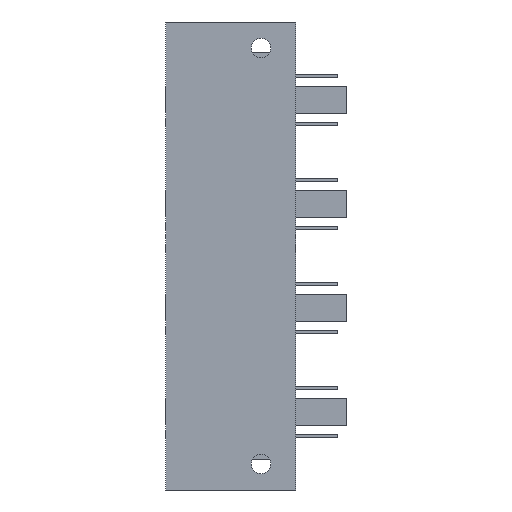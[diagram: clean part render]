
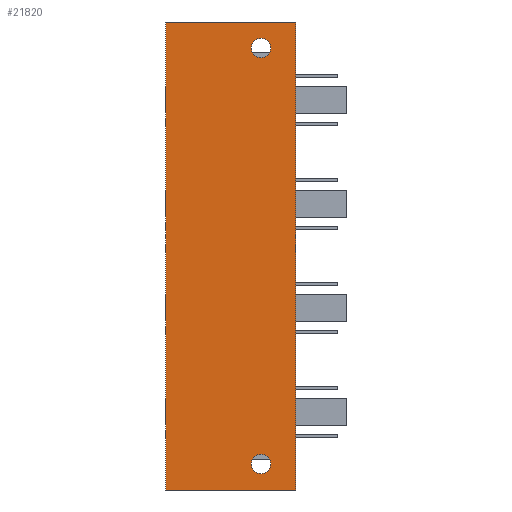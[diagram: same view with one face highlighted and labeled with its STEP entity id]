
A CAD part, left-side view. The second image highlights one B-rep face of the part: STEP entity #21820.
In plain terms, the highlighted planar face has unit normal (-1, 0, 0).
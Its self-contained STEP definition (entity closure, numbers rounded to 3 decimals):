
#154 = EDGE_LOOP ( 'NONE', ( #4365, #4366, #4367, #4368 ) ) ;
#328 = VERTEX_POINT ( 'NONE', #1025 ) ;
#339 = VERTEX_POINT ( 'NONE', #1034 ) ;
#608 = VERTEX_POINT ( 'NONE', #1264 ) ;
#711 = VERTEX_POINT ( 'NONE', #1339 ) ;
#1025 = CARTESIAN_POINT ( 'NONE',  ( -10., 15., -108. ) ) ;
#1034 = CARTESIAN_POINT ( 'NONE',  ( -10., -15., 0. ) ) ;
#1264 = CARTESIAN_POINT ( 'NONE',  ( -10., -15., -108. ) ) ;
#1339 = CARTESIAN_POINT ( 'NONE',  ( -10., 15., 0. ) ) ;
#3944 = EDGE_CURVE ( 'NONE', #711, #328, #8498, .T. ) ;
#3955 = EDGE_CURVE ( 'NONE', #339, #608, #8524, .T. ) ;
#3960 = EDGE_CURVE ( 'NONE', #328, #608, #8526, .T. ) ;
#3962 = EDGE_CURVE ( 'NONE', #20784, #20784, #8535, .T. ) ;
#3965 = EDGE_CURVE ( 'NONE', #20790, #20790, #8538, .T. ) ;
#3972 = EDGE_CURVE ( 'NONE', #339, #711, #8532, .T. ) ;
#4363 = ORIENTED_EDGE ( 'NONE', *, *, #3962, .T. ) ;
#4364 = ORIENTED_EDGE ( 'NONE', *, *, #3965, .T. ) ;
#4365 = ORIENTED_EDGE ( 'NONE', *, *, #3960, .T. ) ;
#4366 = ORIENTED_EDGE ( 'NONE', *, *, #3955, .F. ) ;
#4367 = ORIENTED_EDGE ( 'NONE', *, *, #3972, .T. ) ;
#4368 = ORIENTED_EDGE ( 'NONE', *, *, #3944, .T. ) ;
#5761 = AXIS2_PLACEMENT_3D ( 'NONE', #10261, #10270, #10271 ) ;
#5764 = AXIS2_PLACEMENT_3D ( 'NONE', #10272, #10279, #10280 ) ;
#8498 = LINE ( 'NONE', #10222, #8510 ) ;
#8510 = VECTOR ( 'NONE', #10223, 1000. ) ;
#8524 = LINE ( 'NONE', #10250, #8525 ) ;
#8525 = VECTOR ( 'NONE', #10251, 1000. ) ;
#8526 = LINE ( 'NONE', #10264, #8530 ) ;
#8530 = VECTOR ( 'NONE', #10265, 1000. ) ;
#8532 = LINE ( 'NONE', #10299, #8533 ) ;
#8533 = VECTOR ( 'NONE', #10300, 1000. ) ;
#8535 = CIRCLE ( 'NONE', #5761, 2.25 ) ;
#8538 = CIRCLE ( 'NONE', #5764, 2.25 ) ;
#9298 = EDGE_LOOP ( 'NONE', ( #4363 ) ) ;
#9320 = EDGE_LOOP ( 'NONE', ( #4364 ) ) ;
#10222 = CARTESIAN_POINT ( 'NONE',  ( -10., 15., 0. ) ) ;
#10223 = DIRECTION ( 'NONE',  ( 0., 0., -1. ) ) ;
#10250 = CARTESIAN_POINT ( 'NONE',  ( -10., -15., 0. ) ) ;
#10251 = DIRECTION ( 'NONE',  ( 0., 0., -1. ) ) ;
#10261 = CARTESIAN_POINT ( 'NONE',  ( -10., -7., -102. ) ) ;
#10264 = CARTESIAN_POINT ( 'NONE',  ( -10., -15., -108. ) ) ;
#10265 = DIRECTION ( 'NONE',  ( 0., -1., 0. ) ) ;
#10270 = DIRECTION ( 'NONE',  ( 1., 0., 0. ) ) ;
#10271 = DIRECTION ( 'NONE',  ( 0., 0., -1. ) ) ;
#10272 = CARTESIAN_POINT ( 'NONE',  ( -10., -7., -6. ) ) ;
#10279 = DIRECTION ( 'NONE',  ( 1., 0., 0. ) ) ;
#10280 = DIRECTION ( 'NONE',  ( 0., 0., -1. ) ) ;
#10299 = CARTESIAN_POINT ( 'NONE',  ( -10., -15., 0. ) ) ;
#10300 = DIRECTION ( 'NONE',  ( 0., 1., 0. ) ) ;
#17392 = AXIS2_PLACEMENT_3D ( 'NONE', #18595, #18596, #18597 ) ;
#18573 = PLANE ( 'NONE',  #17392 ) ;
#18595 = CARTESIAN_POINT ( 'NONE',  ( -10., 15., 0. ) ) ;
#18596 = DIRECTION ( 'NONE',  ( -1., 0., 0. ) ) ;
#18597 = DIRECTION ( 'NONE',  ( 0., 0.707, 0.707 ) ) ;
#19369 = FACE_BOUND ( 'NONE', #9298, .T. ) ;
#19372 = FACE_BOUND ( 'NONE', #9320, .T. ) ;
#19376 = FACE_OUTER_BOUND ( 'NONE', #154, .T. ) ;
#20784 = VERTEX_POINT ( 'NONE', #20785 ) ;
#20785 = CARTESIAN_POINT ( 'NONE',  ( -10., -7., -104.25 ) ) ;
#20790 = VERTEX_POINT ( 'NONE', #20791 ) ;
#20791 = CARTESIAN_POINT ( 'NONE',  ( -10., -7., -8.25 ) ) ;
#21820 = ADVANCED_FACE ( 'NONE', ( #19369, #19372, #19376 ), #18573, .T. ) ;
